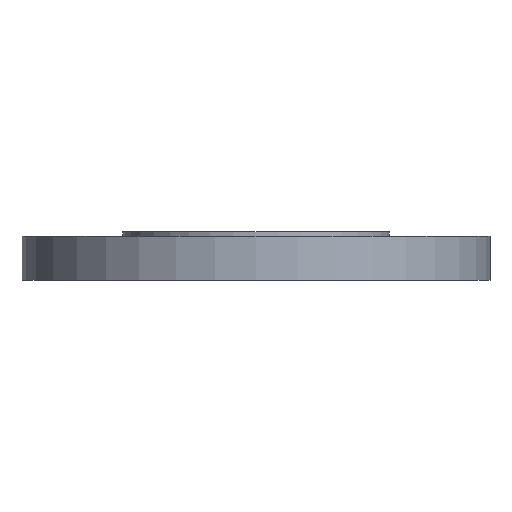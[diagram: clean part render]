
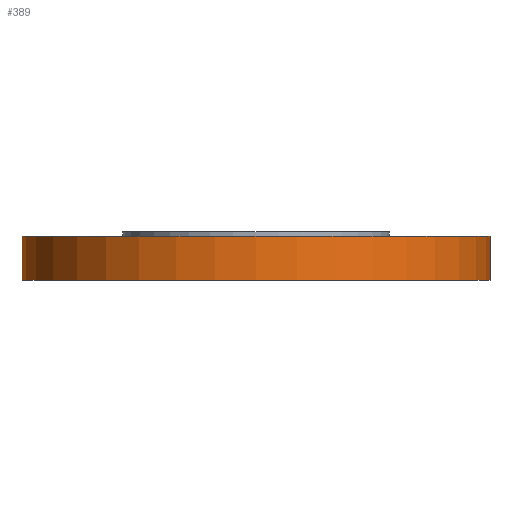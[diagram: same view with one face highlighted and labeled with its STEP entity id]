
A CAD part, front view. The second image highlights one B-rep face of the part: STEP entity #389.
In plain terms, the highlighted cylindrical face has radius 135 mm (diameter 270 mm), a partial arc.
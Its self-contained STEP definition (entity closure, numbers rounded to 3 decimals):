
#5 = LINE ( 'NONE', #315, #316 ) ;
#74 = CYLINDRICAL_SURFACE ( 'NONE', #637, 135. ) ;
#115 = CARTESIAN_POINT ( 'NONE',  ( 135., 0., -78. ) ) ;
#138 = DIRECTION ( 'NONE',  ( 0., 0., -1. ) ) ;
#153 = CARTESIAN_POINT ( 'NONE',  ( 0., 0., -2.5 ) ) ;
#263 = EDGE_CURVE ( 'NONE', #791, #774, #836, .T. ) ;
#314 = ORIENTED_EDGE ( 'NONE', *, *, #396, .T. ) ;
#315 = CARTESIAN_POINT ( 'NONE',  ( -135., 0., -78. ) ) ;
#316 = VECTOR ( 'NONE', #634, 1000. ) ;
#385 = CARTESIAN_POINT ( 'NONE',  ( 0., 0., -78. ) ) ;
#389 = ADVANCED_FACE ( 'NONE', ( #775 ), #74, .T. ) ;
#396 = EDGE_CURVE ( 'NONE', #910, #424, #817, .T. ) ;
#424 = VERTEX_POINT ( 'NONE', #712 ) ;
#426 = DIRECTION ( 'NONE',  ( 0., 0., 1. ) ) ;
#446 = DIRECTION ( 'NONE',  ( -1., 0., 0. ) ) ;
#461 = EDGE_CURVE ( 'NONE', #774, #424, #5, .T. ) ;
#466 = DIRECTION ( 'NONE',  ( 0., 0., -1. ) ) ;
#502 = AXIS2_PLACEMENT_3D ( 'NONE', #153, #466, #778 ) ;
#514 = CARTESIAN_POINT ( 'NONE',  ( 135., 0., -2.5 ) ) ;
#520 = ORIENTED_EDGE ( 'NONE', *, *, #263, .F. ) ;
#558 = EDGE_CURVE ( 'NONE', #791, #910, #818, .T. ) ;
#566 = VECTOR ( 'NONE', #426, 1000. ) ;
#575 = CARTESIAN_POINT ( 'NONE',  ( -135., 0., -28. ) ) ;
#634 = DIRECTION ( 'NONE',  ( 0., 0., 1. ) ) ;
#637 = AXIS2_PLACEMENT_3D ( 'NONE', #385, #703, #984 ) ;
#638 = ORIENTED_EDGE ( 'NONE', *, *, #461, .F. ) ;
#703 = DIRECTION ( 'NONE',  ( 0., 0., 1. ) ) ;
#709 = AXIS2_PLACEMENT_3D ( 'NONE', #839, #138, #446 ) ;
#712 = CARTESIAN_POINT ( 'NONE',  ( -135., 0., -2.5 ) ) ;
#738 = CARTESIAN_POINT ( 'NONE',  ( 135., 0., -28. ) ) ;
#774 = VERTEX_POINT ( 'NONE', #575 ) ;
#775 = FACE_OUTER_BOUND ( 'NONE', #900, .T. ) ;
#778 = DIRECTION ( 'NONE',  ( -1., 0., 0. ) ) ;
#791 = VERTEX_POINT ( 'NONE', #738 ) ;
#817 = CIRCLE ( 'NONE', #502, 135. ) ;
#818 = LINE ( 'NONE', #115, #566 ) ;
#836 = CIRCLE ( 'NONE', #709, 135. ) ;
#839 = CARTESIAN_POINT ( 'NONE',  ( 0., 0., -28. ) ) ;
#895 = ORIENTED_EDGE ( 'NONE', *, *, #558, .T. ) ;
#900 = EDGE_LOOP ( 'NONE', ( #638, #520, #895, #314 ) ) ;
#910 = VERTEX_POINT ( 'NONE', #514 ) ;
#984 = DIRECTION ( 'NONE',  ( 1., 0., 0. ) ) ;
